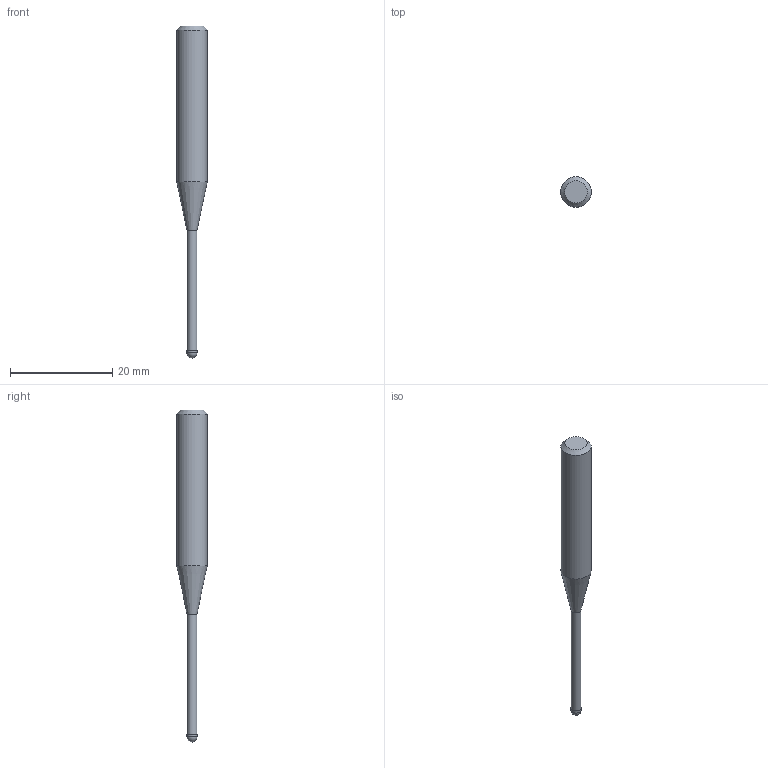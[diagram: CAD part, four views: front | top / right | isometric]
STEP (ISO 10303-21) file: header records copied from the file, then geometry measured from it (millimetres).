
FILE_DESCRIPTION((''),'2;1');
FILE_NAME('C:\Users\nsx150\AppData\Local\Temp\Mastercam 2021\ARV7HD45SN\TEMP.step','2023-06-13T16:37:51',(''),(''),'STEP Write','Mastercam 2021 ... CNC Software, Inc.','');
FILE_SCHEMA(('AUTOMOTIVE_DESIGN'));
Length unit declared in the file: millimetre
Products named in the file (1): None
Bounding box: 6 x 6 x 65 mm (x, y, z)
Volume: 1057.1 mm3; surface area: 873.1 mm2
Topology: 2 solids, 2 shells, 9 faces, 14 edges, 8 vertices
Faces by surface type: plane 3, cylinder 3, cone 2, sphere 1
Full cylindrical faces by diameter (mm): 1.94 x1, 2 x1, 6 x1
Entity records: 211 total; most frequent: DIRECTION 36, CARTESIAN_POINT 25, AXIS2_PLACEMENT_3D 18, ORIENTED_EDGE 14, EDGE_LOOP 14, STYLED_ITEM 12, ADVANCED_FACE 9, FACE_BOUND 8
